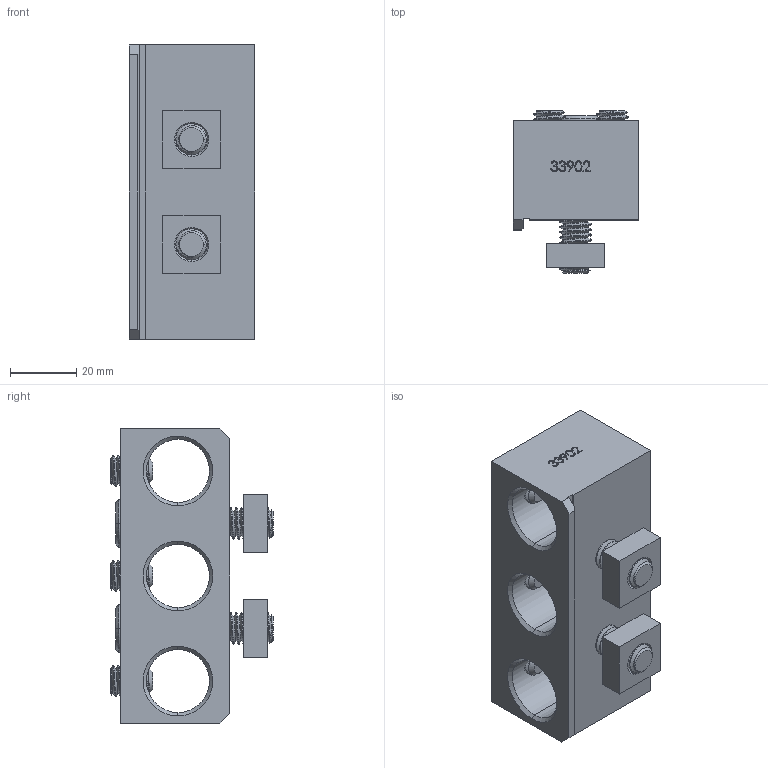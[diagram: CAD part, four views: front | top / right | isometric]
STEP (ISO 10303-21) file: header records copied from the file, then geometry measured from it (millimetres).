
FILE_DESCRIPTION (( 'STEP AP214' ), '1' );
FILE_NAME ('33902 3-POSITION GANG BLOCK.STEP', '2015-06-16T19:55:55', ( '' ), ( '' ), 'SwSTEP 2.0', 'SolidWorks 2014', '' );
FILE_SCHEMA (( 'AUTOMOTIVE_DESIGN' ));
Length unit declared in the file: millimetre
Products named in the file (5): 33906-SQ NUT; 33906 38-16 SHCS_91251A628; 33906 FPSS .38-16 X .5_94105A610; 33902 BLOCK; 33902 3-POSITION GANG BLOCK
Assembly tree (11 placements, depth 2):
  33902 3-POSITION GANG BLOCK
    33902 BLOCK
    33906 FPSS .38-16 X .5_94105A610  x6
    33906 38-16 SHCS_91251A628  x2
    33906-SQ NUT  x2
Bounding box: 38 x 49.1 x 88.9 mm (x, y, z)
Volume: 75890.8 mm3; surface area: 33830.6 mm2
Topology: 11 solids, 11 shells, 681 faces, 1746 edges, 1094 vertices
Faces by surface type: cylinder 312, plane 153, cone 142, bspline 74
Entity records: 17986 total; most frequent: CARTESIAN_POINT 9926, ORIENTED_EDGE 1670, DIRECTION 1132, EDGE_CURVE 835, VERTEX_POINT 535, AXIS2_PLACEMENT_3D 390, EDGE_LOOP 356, VECTOR 352
